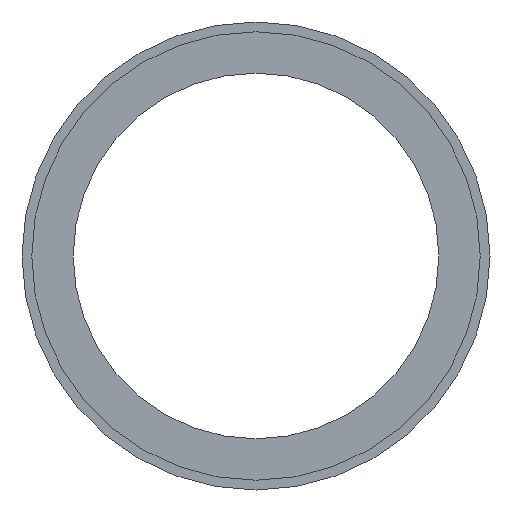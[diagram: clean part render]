
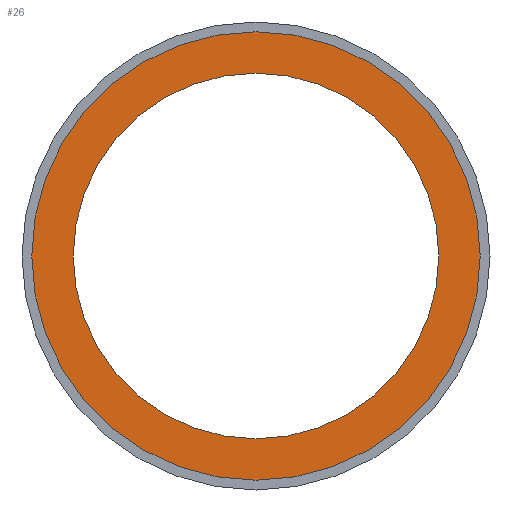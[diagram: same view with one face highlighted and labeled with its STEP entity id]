
A CAD part, front view. The second image highlights one B-rep face of the part: STEP entity #26.
In plain terms, the highlighted planar face has unit normal (0, -1, 0).
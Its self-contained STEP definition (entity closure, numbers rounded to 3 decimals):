
#26 = ADVANCED_FACE ( 'NONE', ( #47, #283 ), #274, .T. ) ;
#35 = VERTEX_POINT ( 'NONE', #141 ) ;
#44 = VERTEX_POINT ( 'NONE', #80 ) ;
#47 = FACE_OUTER_BOUND ( 'NONE', #97, .T. ) ;
#66 = ORIENTED_EDGE ( 'NONE', *, *, #279, .F. ) ;
#80 = CARTESIAN_POINT ( 'NONE',  ( 0., 2.53, -18.75 ) ) ;
#82 = DIRECTION ( 'NONE',  ( 0., 0., -1. ) ) ;
#87 = CARTESIAN_POINT ( 'NONE',  ( 0., 2.53, 23. ) ) ;
#88 = AXIS2_PLACEMENT_3D ( 'NONE', #110, #200, #82 ) ;
#97 = EDGE_LOOP ( 'NONE', ( #247, #256 ) ) ;
#106 = DIRECTION ( 'NONE',  ( 0., -1., 0. ) ) ;
#108 = AXIS2_PLACEMENT_3D ( 'NONE', #345, #257, #232 ) ;
#110 = CARTESIAN_POINT ( 'NONE',  ( 0., 2.53, 0. ) ) ;
#113 = EDGE_CURVE ( 'NONE', #35, #254, #132, .T. ) ;
#132 = CIRCLE ( 'NONE', #183, 23. ) ;
#141 = CARTESIAN_POINT ( 'NONE',  ( 0., 2.53, -23. ) ) ;
#174 = DIRECTION ( 'NONE',  ( 0., -1., 0. ) ) ;
#183 = AXIS2_PLACEMENT_3D ( 'NONE', #241, #204, #354 ) ;
#185 = CIRCLE ( 'NONE', #327, 18.75 ) ;
#200 = DIRECTION ( 'NONE',  ( 0., -1., 0. ) ) ;
#204 = DIRECTION ( 'NONE',  ( 0., -1., 0. ) ) ;
#212 = EDGE_LOOP ( 'NONE', ( #66, #303 ) ) ;
#228 = CARTESIAN_POINT ( 'NONE',  ( 0., 2.53, 18.75 ) ) ;
#232 = DIRECTION ( 'NONE',  ( 0., 0., -1. ) ) ;
#235 = CIRCLE ( 'NONE', #88, 18.75 ) ;
#241 = CARTESIAN_POINT ( 'NONE',  ( 0., 2.53, 0. ) ) ;
#247 = ORIENTED_EDGE ( 'NONE', *, *, #113, .T. ) ;
#253 = CARTESIAN_POINT ( 'NONE',  ( 18.75, 2.53, 0. ) ) ;
#254 = VERTEX_POINT ( 'NONE', #87 ) ;
#256 = ORIENTED_EDGE ( 'NONE', *, *, #272, .T. ) ;
#257 = DIRECTION ( 'NONE',  ( 0., -1., 0. ) ) ;
#272 = EDGE_CURVE ( 'NONE', #254, #35, #349, .T. ) ;
#274 = PLANE ( 'NONE',  #292 ) ;
#278 = DIRECTION ( 'NONE',  ( 0., 0., -1. ) ) ;
#279 = EDGE_CURVE ( 'NONE', #44, #363, #235, .T. ) ;
#283 = FACE_BOUND ( 'NONE', #212, .T. ) ;
#292 = AXIS2_PLACEMENT_3D ( 'NONE', #253, #174, #278 ) ;
#303 = ORIENTED_EDGE ( 'NONE', *, *, #339, .F. ) ;
#327 = AXIS2_PLACEMENT_3D ( 'NONE', #346, #106, #342 ) ;
#339 = EDGE_CURVE ( 'NONE', #363, #44, #185, .T. ) ;
#342 = DIRECTION ( 'NONE',  ( 0., 0., -1. ) ) ;
#345 = CARTESIAN_POINT ( 'NONE',  ( 0., 2.53, 0. ) ) ;
#346 = CARTESIAN_POINT ( 'NONE',  ( 0., 2.53, 0. ) ) ;
#349 = CIRCLE ( 'NONE', #108, 23. ) ;
#354 = DIRECTION ( 'NONE',  ( 0., 0., -1. ) ) ;
#363 = VERTEX_POINT ( 'NONE', #228 ) ;
